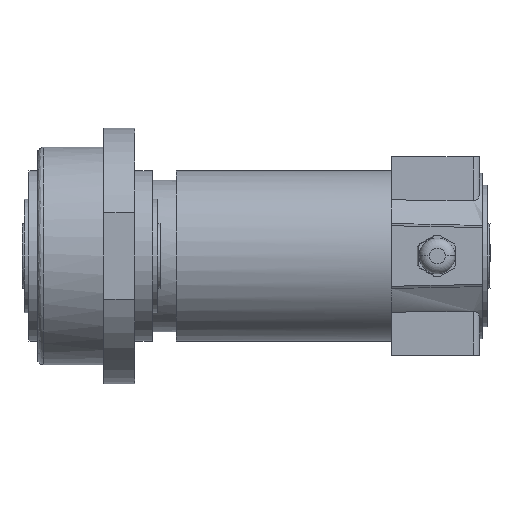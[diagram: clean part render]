
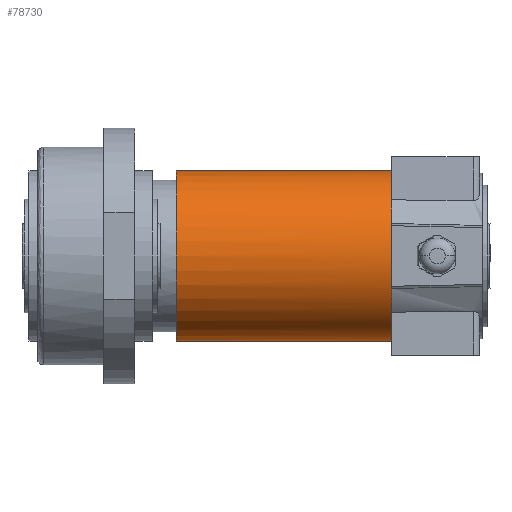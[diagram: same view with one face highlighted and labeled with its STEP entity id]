
A CAD part, front view. The second image highlights one B-rep face of the part: STEP entity #78730.
In plain terms, the highlighted cylindrical face has radius 45 mm (diameter 90 mm), a partial arc.
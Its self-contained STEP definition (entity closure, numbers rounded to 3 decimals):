
#21200=CARTESIAN_POINT('',(-64.,458.874,
-134.584));
#21210=DIRECTION('',(0.,1.,
-0.026));
#21220=DIRECTION('',(1.,0.,0.));
#21230=AXIS2_PLACEMENT_3D('',#21200,#21210,#21220);
#21240=CIRCLE('',#21230,45.);
#21250=CARTESIAN_POINT('',(-19.,458.874,
-134.584));
#21260=VERTEX_POINT('',#21250);
#21270=CARTESIAN_POINT('',(-109.,458.874,
-134.584));
#21280=VERTEX_POINT('',#21270);
#21290=EDGE_CURVE('',#21260,#21280,#21240,.T.);
#21360=CARTESIAN_POINT('',(-64.,458.874,
-134.584));
#21370=DIRECTION('',(0.,1.,
-0.026));
#21380=DIRECTION('',(1.,0.,0.));
#21390=AXIS2_PLACEMENT_3D('',#21360,#21370,#21380);
#21400=CYLINDRICAL_SURFACE('',#21390,45.);
#21410=CARTESIAN_POINT('',(-109.,458.874,
-134.584));
#21420=DIRECTION('',(0.,1.,
-0.026));
#21430=VECTOR('',#21420,1.);
#21440=LINE('',#21410,#21430);
#21450=CARTESIAN_POINT('',(-109.,572.835,
-137.568));
#21460=VERTEX_POINT('',#21450);
#21470=EDGE_CURVE('',#21280,#21460,#21440,.T.);
#21490=CARTESIAN_POINT('',(-64.,572.835,
-137.568));
#21500=DIRECTION('',(0.,1.,
-0.026));
#21510=DIRECTION('',(1.,0.,0.));
#21520=AXIS2_PLACEMENT_3D('',#21490,#21500,#21510);
#21530=CIRCLE('',#21520,45.);
#21540=CARTESIAN_POINT('',(-19.,572.835,
-137.568));
#21550=VERTEX_POINT('',#21540);
#21580=CARTESIAN_POINT('',(-19.,458.874,
-134.584));
#21590=DIRECTION('',(0.,1.,
-0.026));
#21600=VECTOR('',#21590,1.);
#21610=LINE('',#21580,#21600);
#21620=EDGE_CURVE('',#21260,#21550,#21610,.T.);
#21730=EDGE_CURVE('',#21550,#21460,#21530,.T.);
#78670=ORIENTED_EDGE('',*,*,#21290,.T.);
#78680=ORIENTED_EDGE('',*,*,#21620,.F.);
#78690=ORIENTED_EDGE('',*,*,#21730,.F.);
#78700=ORIENTED_EDGE('',*,*,#21470,.T.);
#78710=EDGE_LOOP('',(#78700,#78690,#78680,#78670));
#78720=FACE_OUTER_BOUND('',#78710,.T.);
#78730=ADVANCED_FACE('',(#78720),#21400,.T.);
